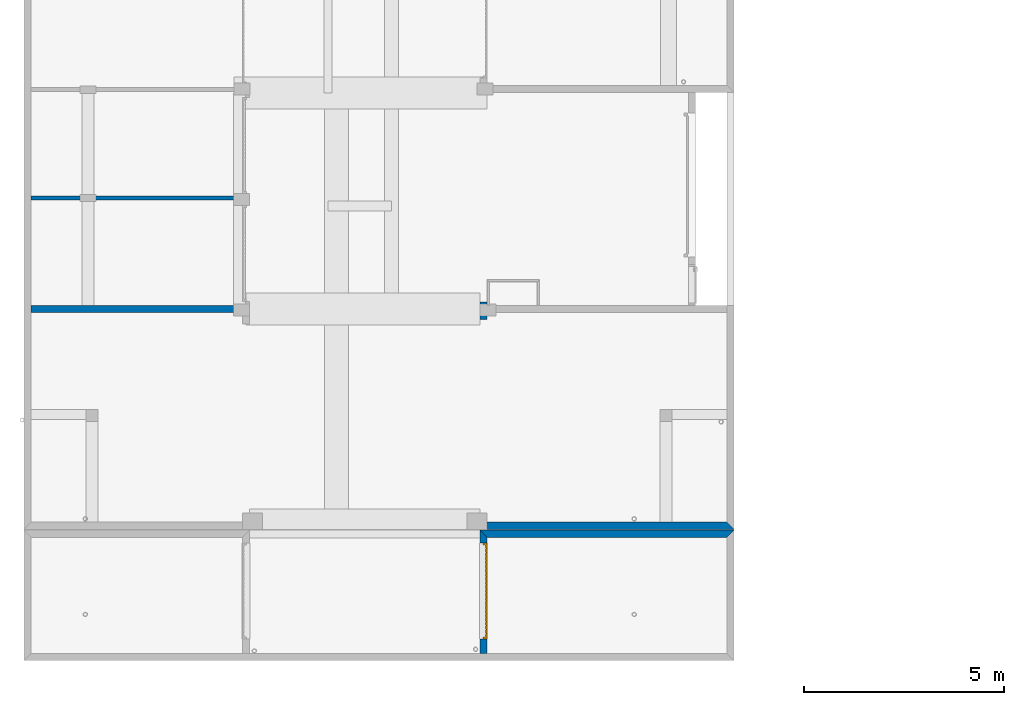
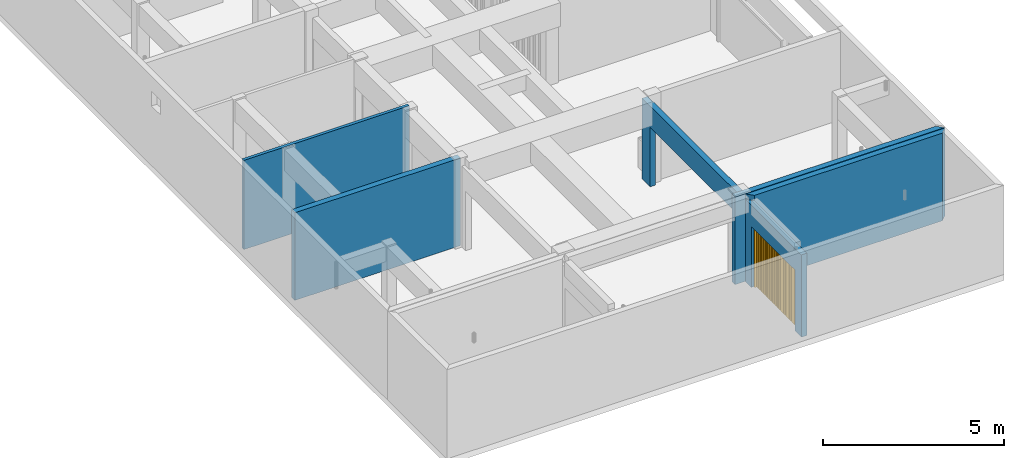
# One storey, part 4 of 41: 6 walls, 1 door, 2 openings.
"""IFC2X3 building model written with IfcOpenShell, lengths in millimetres."""

from ifc_helpers import new_model, entity, si_unit, converted_unit, derived_unit, money_unit, direction, frame, origin_with_axes, origin_2d_with_axis, place, context, subcontext, project, spatial, polyline, rectangle, outline, extrude, faceted_brep, source, transform, mapped, material, layer, layer_set, layer_usage, type_object, element, fill, save


model = new_model("IFC2X3")

# Units and contexts
model_context = context("Model", 3, precision=0.01, world=origin_with_axes(), true_north=direction((0.0, 1.0)))
body_context = subcontext(model_context, "Body", "Model", "MODEL_VIEW")
ifc_project = project(units=[si_unit("LENGTHUNIT", "METRE", prefix="MILLI"), si_unit("AREAUNIT", "SQUARE_METRE"), si_unit("VOLUMEUNIT", "CUBIC_METRE"), converted_unit("PLANEANGLEUNIT", "DEGREE", entity("IfcPlaneAngleMeasure", 0.0174532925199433), si_unit("PLANEANGLEUNIT", "RADIAN"), dimensions=[0, 0, 0, 0, 0, 0, 0]), money_unit("USD"), converted_unit("TIMEUNIT", "Year", entity("IfcTimeMeasure", 31557600.0), si_unit("TIMEUNIT", "SECOND"), dimensions=[0, 0, 1, 0, 0, 0, 0]), si_unit("MASSUNIT", "GRAM", prefix="KILO"), si_unit("THERMODYNAMICTEMPERATUREUNIT", "DEGREE_CELSIUS"), si_unit("LUMINOUSINTENSITYUNIT", "LUMEN"), si_unit("ENERGYUNIT", "JOULE", prefix="MEGA"), derived_unit("THERMALCONDUCTANCEUNIT", [(si_unit("POWERUNIT", "WATT"), 1), (si_unit("LENGTHUNIT", "METRE"), -1), (si_unit("THERMODYNAMICTEMPERATUREUNIT", "KELVIN"), -1)]), derived_unit("SPECIFICHEATCAPACITYUNIT", [(si_unit("ENERGYUNIT", "JOULE"), 1), (si_unit("MASSUNIT", "GRAM", prefix="KILO"), -1), (si_unit("THERMODYNAMICTEMPERATUREUNIT", "KELVIN"), -1)]), derived_unit("MASSDENSITYUNIT", [(si_unit("MASSUNIT", "GRAM", prefix="KILO"), 1), (si_unit("VOLUMEUNIT", "CUBIC_METRE"), -1)])], contexts=[model_context])

# Site, building, storey
site_placement = place(None, origin_with_axes())
site = spatial("IfcSite", under=ifc_project, at=site_placement, Name="Site", CompositionType="ELEMENT")
building_placement = place(site_placement, origin_with_axes())
building = spatial("IfcBuilding", under=site, at=building_placement, Name="Bâtiment", CompositionType="ELEMENT")
storey_placement = place(building_placement, origin_with_axes())
storey = spatial("IfcBuildingStorey", under=building, at=storey_placement, Name="sousol", CompositionType="ELEMENT", Elevation=0.0)

# Walls
ifc_material_1 = material(Name="Brique 1 268964100")
ifc_layer_1 = layer(ifc_material_1, 100.0, ventilated="UNKNOWN")
ifc_layer_set_1 = layer_set([ifc_layer_1], Name="Cloison 100 gaine")
ifc_layer_usage_1 = layer_usage(ifc_layer_set_1, "AXIS2", "NEGATIVE", 0.0)
wall_type_1 = type_object("IfcWallType", Name="Cloison 100 gaine 100", PredefinedType="NOTDEFINED")
wall_1_placement = place(storey_placement, frame((2222264.23334483, -649596.3764873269, 0.0), z_axis=(0.0, 0.0, 1.0), x_axis=(-1.0, 0.0, 0.0)))
element("IfcWallStandardCase", 1, at=wall_1_placement, inside=storey, type_object=wall_type_1, material=ifc_layer_usage_1, Name="Mur-133", context=body_context, shape_type="SweptSolid", body=[
    extrude(outline(polyline([(180.0000000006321, -99.99999999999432), (5449.999999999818, -99.99999999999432), (5449.999999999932, 0.0), (180.0000000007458, 0.0), (180.0000000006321, -99.99999999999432)])), origin_with_axes(), (0.0, 0.0, 1.0), 3000.0),
])
ifc_material_2 = material(Name="Parpaing 314940890")
ifc_layer_2 = layer(ifc_material_2, 180.0, ventilated="UNKNOWN")
ifc_layer_set_2 = layer_set([ifc_layer_2], Name="Beton  18 0170347028")
ifc_layer_usage_2 = layer_usage(ifc_layer_set_2, "AXIS2", "NEGATIVE", 0.0)
wall_type_2 = type_object("IfcWallType", Name="Beton  18 0170347028 180", PredefinedType="NOTDEFINED")
wall_2_placement = place(storey_placement, frame((2222264.23334483, -652412.6820620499, 0.0), z_axis=(0.0, 0.0, 1.0), x_axis=(-1.0, 0.0, 0.0)))
element("IfcWallStandardCase", 2, at=wall_2_placement, inside=storey, type_object=wall_type_2, material=ifc_layer_usage_2, Name="Mur-133", context=body_context, shape_type="SweptSolid", body=[
    extrude(outline(polyline([(180.0000000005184, -180.0000000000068), (5449.999999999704, -180.0000000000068), (5449.999999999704, 0.0), (180.0000000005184, 0.0), (180.0000000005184, -180.0000000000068)])), origin_with_axes(), (0.0, 0.0, 1.0), 2950.0),
])
ifc_layer_usage_3 = layer_usage(ifc_layer_set_2, "AXIS2", "POSITIVE", 0.0)
wall_3_placement = place(storey_placement, frame((2227694.233329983, -657818.3230769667, 0.0), z_axis=(0.0, 0.0, 1.0), x_axis=(1.0, 0.0, 0.0)))
element("IfcWallStandardCase", 3, at=wall_3_placement, inside=storey, type_object=wall_type_2, material=ifc_layer_usage_3, Name="Mur-133", context=body_context, shape_type="SweptSolid", body=[
    extrude(outline(polyline([(0.0, 0.0), (6662.408013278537, 0.0), (6482.408013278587, 180.0000000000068), (0.0, 180.0000000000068), (0.0, 0.0)])), origin_with_axes(), (0.0, 0.0, 1.0), 2950.0),
])

# Wall, opening
ifc_layer_usage_4 = layer_usage(ifc_layer_set_2, "AXIS2", "POSITIVE", 0.0)
wall_4_placement = place(storey_placement, frame((2228014.233329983, -652146.1737143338, 0.0), z_axis=(0.0, 0.0, 1.0), x_axis=(0.0, -1.0, 0.0)))
wall_4 = element("IfcWallStandardCase", 4, at=wall_4_placement, inside=storey, type_object=wall_type_2, material=ifc_layer_usage_4, Name="Mur-133", context=body_context, shape_type="SweptSolid", body=[
    extrude(outline(polyline([(0.0, 0.0), (5492.149362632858, 0.0), (5492.149362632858, 179.99999999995), (0.0, 179.99999999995), (0.0, 0.0)])), origin_with_axes(), (0.0, 0.0, 1.0), 2719.999999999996),
])
opening_1_placement = place(wall_4_placement, frame((2852.877738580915, -1.13686837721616e-10, 0.0), z_axis=(0.0, 0.0, 1.0), x_axis=(1.0, 0.0, 0.0)))
element("IfcOpeningElement", 5, at=opening_1_placement, cuts=wall_4, Name="Por-241", context=body_context, shape_type="SweptSolid", body=[
    extrude(rectangle(XDim=4838.543248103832, YDim=2000.0, at=origin_2d_with_axis()), frame((0.0, 179.99999999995, 1000.0), z_axis=(0.0, -1.0, 0.0), x_axis=(1.0, 0.0, 0.0)), (0.0, 0.0, -1.0), 180.0),
    extrude(rectangle(XDim=4838.543248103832, YDim=2000.0, at=origin_2d_with_axis()), frame((0.0, 179.99999999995, 1000.0), z_axis=(0.0, 1.0, 0.0), x_axis=(1.0, 0.0, 0.0)), (0.0, 0.0, -1.0), 180.0),
])

# Wall, opening, door
ifc_layer_usage_5 = layer_usage(ifc_layer_set_2, "AXIS2", "POSITIVE", 0.0)
wall_5_placement = place(storey_placement, frame((2228014.233329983, -657838.3230769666, 0.0), z_axis=(0.0, 0.0, 1.0), x_axis=(0.0, -1.0, 0.0)))
wall_5 = element("IfcWallStandardCase", 6, at=wall_5_placement, inside=storey, type_object=wall_type_2, material=ifc_layer_usage_5, Name="Mur-133", context=body_context, shape_type="SweptSolid", body=[
    extrude(outline(polyline([(0.0, 0.0), (3079.714388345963, 0.0), (3079.709870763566, 179.99999999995), (180.0000000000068, 179.99999999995), (0.0, 0.0)])), origin_with_axes(), (0.0, 0.0, 1.0), 2769.999999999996),
])
opening_2_placement = place(wall_5_placement, frame((1522.199473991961, -1.13686837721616e-10, 0.0), z_axis=(0.0, 0.0, 1.0), x_axis=(1.0, 0.0, 0.0)))
opening_2 = element("IfcOpeningElement", 7, at=opening_2_placement, cuts=wall_5, Name="Por-296", context=body_context, shape_type="SweptSolid", body=[
    extrude(rectangle(XDim=2400.000000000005, YDim=2050.0, at=origin_2d_with_axis()), frame((0.0, 179.99999999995, 1025.0), z_axis=(0.0, -1.0, 0.0), x_axis=(1.0, 0.0, 0.0)), (0.0, 0.0, -1.0), 180.0),
    extrude(rectangle(XDim=2400.000000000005, YDim=2050.0, at=origin_2d_with_axis()), frame((0.0, 179.99999999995, 1025.0), z_axis=(0.0, 1.0, 0.0), x_axis=(1.0, 0.0, 0.0)), (0.0, 0.0, -1.0), 180.0),
])
door_style = type_object("IfcDoorStyle", Name="P_garage 1", ConstructionType="NOTDEFINED", OperationType="NOTDEFINED", ParameterTakesPrecedence=False, Sizeable=False)
shared_shape = source(origin_with_axes(), body_context, "Body", "Brep", [
    faceted_brep([(1200.0, 0.0, 0.0), (1200.0, -99.99999999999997, 0.0), (1150.0, -99.99999999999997, 0.0), (1150.0, 0.0, 0.0), (1200.0, 0.0, 2050.0), (1200.0, -99.99999999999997, 2050.0), (-1200.0, -99.99999999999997, 2050.0), (-1200.0, -99.99999999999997, 0.0), (-1150.0, -99.99999999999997, 0.0), (-1150.0, -99.99999999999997, 2000.0), (1150.0, -99.99999999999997, 2000.0), (1150.0, 0.0, 2000.0), (-1150.0, 0.0, 2000.0), (-1150.0, 0.0, 0.0), (-1200.0, 0.0, 0.0), (-1200.0, 0.0, 2050.0)], [[[0, 1, 2, 3]], [[4, 5, 1, 0]], [[1, 5, 6, 7, 8, 9, 10, 2]], [[3, 2, 10, 11]], [[0, 3, 11, 12, 13, 14, 15, 4]], [[15, 6, 5, 4]], [[14, 7, 6, 15]], [[13, 8, 7, 14]], [[12, 9, 8, 13]], [[11, 10, 9, 12]]]),
    faceted_brep([(1069.130434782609, -39.99999999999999, 0.0), (1069.130434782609, -39.99999999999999, 2000.0), (1069.130434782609, -26.66666666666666, 2000.0), (1069.130434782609, -26.66666666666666, 0.0), (1150.0, -39.99999999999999, 0.0), (1150.0, -39.99999999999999, 2000.0), (1150.0, -26.66666666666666, 2000.0), (1150.0, -26.66666666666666, 0.0)], [[[0, 1, 2, 3]], [[0, 4, 5, 1]], [[1, 5, 6, 2]], [[3, 2, 6, 7]], [[4, 0, 3, 7]], [[5, 4, 7, 6]]]),
    faceted_brep([(968.2608695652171, -39.99999999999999, 0.0), (968.2608695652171, -39.99999999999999, 2000.0), (968.2608695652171, -26.66666666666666, 2000.0), (968.2608695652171, -26.66666666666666, 0.0), (1049.130434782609, -39.99999999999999, 0.0), (1049.130434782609, -39.99999999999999, 2000.0), (1049.130434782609, -26.66666666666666, 2000.0), (1049.130434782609, -26.66666666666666, 0.0)], [[[0, 1, 2, 3]], [[0, 4, 5, 1]], [[1, 5, 6, 2]], [[3, 2, 6, 7]], [[4, 0, 3, 7]], [[5, 4, 7, 6]]]),
    faceted_brep([(867.3913043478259, -39.99999999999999, 0.0), (867.3913043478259, -39.99999999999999, 2000.0), (867.3913043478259, -26.66666666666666, 2000.0), (867.3913043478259, -26.66666666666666, 0.0), (948.260869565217, -39.99999999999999, 0.0), (948.260869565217, -39.99999999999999, 2000.0), (948.260869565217, -26.66666666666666, 2000.0), (948.260869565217, -26.66666666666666, 0.0)], [[[0, 1, 2, 3]], [[0, 4, 5, 1]], [[1, 5, 6, 2]], [[3, 2, 6, 7]], [[4, 0, 3, 7]], [[5, 4, 7, 6]]]),
    faceted_brep([(766.5217391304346, -39.99999999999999, 0.0), (766.5217391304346, -39.99999999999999, 2000.0), (766.5217391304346, -26.66666666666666, 2000.0), (766.5217391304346, -26.66666666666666, 0.0), (847.3913043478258, -39.99999999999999, 0.0), (847.3913043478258, -39.99999999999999, 2000.0), (847.3913043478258, -26.66666666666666, 2000.0), (847.3913043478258, -26.66666666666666, 0.0)], [[[0, 1, 2, 3]], [[0, 4, 5, 1]], [[1, 5, 6, 2]], [[3, 2, 6, 7]], [[4, 0, 3, 7]], [[5, 4, 7, 6]]]),
    faceted_brep([(665.6521739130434, -39.99999999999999, 0.0), (665.6521739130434, -39.99999999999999, 2000.0), (665.6521739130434, -26.66666666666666, 2000.0), (665.6521739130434, -26.66666666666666, 0.0), (746.5217391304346, -39.99999999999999, 0.0), (746.5217391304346, -39.99999999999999, 2000.0), (746.5217391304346, -26.66666666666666, 2000.0), (746.5217391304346, -26.66666666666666, 0.0)], [[[0, 1, 2, 3]], [[0, 4, 5, 1]], [[1, 5, 6, 2]], [[3, 2, 6, 7]], [[4, 0, 3, 7]], [[5, 4, 7, 6]]]),
    faceted_brep([(564.7826086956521, -39.99999999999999, 0.0), (564.7826086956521, -39.99999999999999, 2000.0), (564.7826086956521, -26.66666666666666, 2000.0), (564.7826086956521, -26.66666666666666, 0.0), (645.6521739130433, -39.99999999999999, 0.0), (645.6521739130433, -39.99999999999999, 2000.0), (645.6521739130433, -26.66666666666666, 2000.0), (645.6521739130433, -26.66666666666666, 0.0)], [[[0, 1, 2, 3]], [[0, 4, 5, 1]], [[1, 5, 6, 2]], [[3, 2, 6, 7]], [[4, 0, 3, 7]], [[5, 4, 7, 6]]]),
    faceted_brep([(463.9130434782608, -39.99999999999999, 0.0), (463.9130434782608, -39.99999999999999, 2000.0), (463.9130434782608, -26.66666666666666, 2000.0), (463.9130434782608, -26.66666666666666, 0.0), (544.782608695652, -39.99999999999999, 0.0), (544.782608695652, -39.99999999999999, 2000.0), (544.782608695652, -26.66666666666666, 2000.0), (544.782608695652, -26.66666666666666, 0.0)], [[[0, 1, 2, 3]], [[0, 4, 5, 1]], [[1, 5, 6, 2]], [[3, 2, 6, 7]], [[4, 0, 3, 7]], [[5, 4, 7, 6]]]),
    faceted_brep([(363.0434782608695, -39.99999999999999, 0.0), (363.0434782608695, -39.99999999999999, 2000.0), (363.0434782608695, -26.66666666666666, 2000.0), (363.0434782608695, -26.66666666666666, 0.0), (443.9130434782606, -39.99999999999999, 0.0), (443.9130434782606, -39.99999999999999, 2000.0), (443.9130434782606, -26.66666666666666, 2000.0), (443.9130434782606, -26.66666666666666, 0.0)], [[[0, 1, 2, 3]], [[0, 4, 5, 1]], [[1, 5, 6, 2]], [[3, 2, 6, 7]], [[4, 0, 3, 7]], [[5, 4, 7, 6]]]),
    faceted_brep([(262.1739130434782, -39.99999999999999, 0.0), (262.1739130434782, -39.99999999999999, 2000.0), (262.1739130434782, -26.66666666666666, 2000.0), (262.1739130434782, -26.66666666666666, 0.0), (343.0434782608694, -39.99999999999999, 0.0), (343.0434782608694, -39.99999999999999, 2000.0), (343.0434782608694, -26.66666666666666, 2000.0), (343.0434782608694, -26.66666666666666, 0.0)], [[[0, 1, 2, 3]], [[0, 4, 5, 1]], [[1, 5, 6, 2]], [[3, 2, 6, 7]], [[4, 0, 3, 7]], [[5, 4, 7, 6]]]),
    faceted_brep([(161.3043478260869, -39.99999999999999, 0.0), (161.3043478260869, -39.99999999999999, 2000.0), (161.3043478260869, -26.66666666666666, 2000.0), (161.3043478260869, -26.66666666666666, 0.0), (242.1739130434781, -39.99999999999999, 0.0), (242.1739130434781, -39.99999999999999, 2000.0), (242.1739130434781, -26.66666666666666, 2000.0), (242.1739130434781, -26.66666666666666, 0.0)], [[[0, 1, 2, 3]], [[0, 4, 5, 1]], [[1, 5, 6, 2]], [[3, 2, 6, 7]], [[4, 0, 3, 7]], [[5, 4, 7, 6]]]),
    faceted_brep([(60.43478260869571, -39.99999999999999, 0.0), (60.43478260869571, -39.99999999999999, 2000.0), (60.43478260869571, -26.66666666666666, 2000.0), (60.43478260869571, -26.66666666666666, 0.0), (141.3043478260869, -39.99999999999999, 0.0), (141.3043478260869, -39.99999999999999, 2000.0), (141.3043478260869, -26.66666666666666, 2000.0), (141.3043478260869, -26.66666666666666, 0.0)], [[[0, 1, 2, 3]], [[0, 4, 5, 1]], [[1, 5, 6, 2]], [[3, 2, 6, 7]], [[4, 0, 3, 7]], [[5, 4, 7, 6]]]),
    faceted_brep([(-40.43478260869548, -39.99999999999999, 0.0), (-40.43478260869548, -39.99999999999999, 2000.0), (-40.43478260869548, -26.66666666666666, 2000.0), (-40.43478260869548, -26.66666666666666, 0.0), (40.4347826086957, -39.99999999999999, 0.0), (40.4347826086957, -39.99999999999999, 2000.0), (40.4347826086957, -26.66666666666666, 2000.0), (40.4347826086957, -26.66666666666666, 0.0)], [[[0, 1, 2, 3]], [[0, 4, 5, 1]], [[1, 5, 6, 2]], [[3, 2, 6, 7]], [[4, 0, 3, 7]], [[5, 4, 7, 6]]]),
    faceted_brep([(-141.3043478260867, -39.99999999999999, 0.0), (-141.3043478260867, -39.99999999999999, 2000.0), (-141.3043478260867, -26.66666666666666, 2000.0), (-141.3043478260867, -26.66666666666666, 0.0), (-60.43478260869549, -39.99999999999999, 0.0), (-60.43478260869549, -39.99999999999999, 2000.0), (-60.43478260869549, -26.66666666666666, 2000.0), (-60.43478260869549, -26.66666666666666, 0.0)], [[[0, 1, 2, 3]], [[0, 4, 5, 1]], [[1, 5, 6, 2]], [[3, 2, 6, 7]], [[4, 0, 3, 7]], [[5, 4, 7, 6]]]),
    faceted_brep([(-242.1739130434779, -39.99999999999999, 0.0), (-242.1739130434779, -39.99999999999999, 2000.0), (-242.1739130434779, -26.66666666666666, 2000.0), (-242.1739130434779, -26.66666666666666, 0.0), (-161.3043478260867, -39.99999999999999, 0.0), (-161.3043478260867, -39.99999999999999, 2000.0), (-161.3043478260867, -26.66666666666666, 2000.0), (-161.3043478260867, -26.66666666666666, 0.0)], [[[0, 1, 2, 3]], [[0, 4, 5, 1]], [[1, 5, 6, 2]], [[3, 2, 6, 7]], [[4, 0, 3, 7]], [[5, 4, 7, 6]]]),
    faceted_brep([(-343.0434782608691, -39.99999999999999, 0.0), (-343.0434782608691, -39.99999999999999, 2000.0), (-343.0434782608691, -26.66666666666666, 2000.0), (-343.0434782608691, -26.66666666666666, 0.0), (-262.1739130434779, -39.99999999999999, 0.0), (-262.1739130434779, -39.99999999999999, 2000.0), (-262.1739130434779, -26.66666666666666, 2000.0), (-262.1739130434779, -26.66666666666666, 0.0)], [[[0, 1, 2, 3]], [[0, 4, 5, 1]], [[1, 5, 6, 2]], [[3, 2, 6, 7]], [[4, 0, 3, 7]], [[5, 4, 7, 6]]]),
    faceted_brep([(-443.9130434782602, -39.99999999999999, 0.0), (-443.9130434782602, -39.99999999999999, 2000.0), (-443.9130434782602, -26.66666666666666, 2000.0), (-443.9130434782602, -26.66666666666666, 0.0), (-363.0434782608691, -39.99999999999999, 0.0), (-363.0434782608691, -39.99999999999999, 2000.0), (-363.0434782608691, -26.66666666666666, 2000.0), (-363.0434782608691, -26.66666666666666, 0.0)], [[[0, 1, 2, 3]], [[0, 4, 5, 1]], [[1, 5, 6, 2]], [[3, 2, 6, 7]], [[4, 0, 3, 7]], [[5, 4, 7, 6]]]),
    faceted_brep([(-544.7826086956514, -39.99999999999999, 0.0), (-544.7826086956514, -39.99999999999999, 2000.0), (-544.7826086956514, -26.66666666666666, 2000.0), (-544.7826086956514, -26.66666666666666, 0.0), (-463.9130434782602, -39.99999999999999, 0.0), (-463.9130434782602, -39.99999999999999, 2000.0), (-463.9130434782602, -26.66666666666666, 2000.0), (-463.9130434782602, -26.66666666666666, 0.0)], [[[0, 1, 2, 3]], [[0, 4, 5, 1]], [[1, 5, 6, 2]], [[3, 2, 6, 7]], [[4, 0, 3, 7]], [[5, 4, 7, 6]]]),
    faceted_brep([(-645.6521739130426, -39.99999999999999, 0.0), (-645.6521739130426, -39.99999999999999, 2000.0), (-645.6521739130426, -26.66666666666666, 2000.0), (-645.6521739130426, -26.66666666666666, 0.0), (-564.7826086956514, -39.99999999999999, 0.0), (-564.7826086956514, -39.99999999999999, 2000.0), (-564.7826086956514, -26.66666666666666, 2000.0), (-564.7826086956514, -26.66666666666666, 0.0)], [[[0, 1, 2, 3]], [[0, 4, 5, 1]], [[1, 5, 6, 2]], [[3, 2, 6, 7]], [[4, 0, 3, 7]], [[5, 4, 7, 6]]]),
    faceted_brep([(-746.5217391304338, -39.99999999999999, 0.0), (-746.5217391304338, -39.99999999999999, 2000.0), (-746.5217391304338, -26.66666666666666, 2000.0), (-746.5217391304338, -26.66666666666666, 0.0), (-665.6521739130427, -39.99999999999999, 0.0), (-665.6521739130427, -39.99999999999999, 2000.0), (-665.6521739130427, -26.66666666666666, 2000.0), (-665.6521739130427, -26.66666666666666, 0.0)], [[[0, 1, 2, 3]], [[0, 4, 5, 1]], [[1, 5, 6, 2]], [[3, 2, 6, 7]], [[4, 0, 3, 7]], [[5, 4, 7, 6]]]),
    faceted_brep([(-847.391304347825, -39.99999999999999, 0.0), (-847.391304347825, -39.99999999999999, 2000.0), (-847.391304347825, -26.66666666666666, 2000.0), (-847.391304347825, -26.66666666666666, 0.0), (-766.5217391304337, -39.99999999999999, 0.0), (-766.5217391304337, -39.99999999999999, 2000.0), (-766.5217391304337, -26.66666666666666, 2000.0), (-766.5217391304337, -26.66666666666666, 0.0)], [[[0, 1, 2, 3]], [[0, 4, 5, 1]], [[1, 5, 6, 2]], [[3, 2, 6, 7]], [[4, 0, 3, 7]], [[5, 4, 7, 6]]]),
    faceted_brep([(-948.2608695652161, -39.99999999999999, 0.0), (-948.2608695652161, -39.99999999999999, 2000.0), (-948.2608695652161, -26.66666666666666, 2000.0), (-948.2608695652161, -26.66666666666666, 0.0), (-867.391304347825, -39.99999999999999, 0.0), (-867.391304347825, -39.99999999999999, 2000.0), (-867.391304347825, -26.66666666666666, 2000.0), (-867.391304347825, -26.66666666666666, 0.0)], [[[0, 1, 2, 3]], [[0, 4, 5, 1]], [[1, 5, 6, 2]], [[3, 2, 6, 7]], [[4, 0, 3, 7]], [[5, 4, 7, 6]]]),
    faceted_brep([(-1049.130434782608, -39.99999999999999, 0.0), (-1049.130434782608, -39.99999999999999, 2000.0), (-1049.130434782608, -26.66666666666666, 2000.0), (-1049.130434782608, -26.66666666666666, 0.0), (-968.2608695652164, -39.99999999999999, 0.0), (-968.2608695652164, -39.99999999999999, 2000.0), (-968.2608695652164, -26.66666666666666, 2000.0), (-968.2608695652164, -26.66666666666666, 0.0)], [[[0, 1, 2, 3]], [[0, 4, 5, 1]], [[1, 5, 6, 2]], [[3, 2, 6, 7]], [[4, 0, 3, 7]], [[5, 4, 7, 6]]]),
    faceted_brep([(-1149.999999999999, -39.99999999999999, 0.0), (-1149.999999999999, -39.99999999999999, 2000.0), (-1149.999999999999, -26.66666666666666, 2000.0), (-1149.999999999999, -26.66666666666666, 0.0), (-1069.130434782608, -39.99999999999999, 0.0), (-1069.130434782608, -39.99999999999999, 2000.0), (-1069.130434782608, -26.66666666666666, 2000.0), (-1069.130434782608, -26.66666666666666, 0.0)], [[[0, 1, 2, 3]], [[0, 4, 5, 1]], [[1, 5, 6, 2]], [[3, 2, 6, 7]], [[4, 0, 3, 7]], [[5, 4, 7, 6]]]),
    faceted_brep([(1150.0, -26.66666666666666, 0.0), (-1150.0, -26.66666666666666, 0.0), (-1150.0, 0.0, 0.0), (1150.0, 0.0, 0.0), (1150.0, -26.66666666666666, 2000.0), (-1150.0, -26.66666666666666, 2000.0), (-1150.0, 0.0, 2000.0), (1150.0, 0.0, 2000.0)], [[[0, 1, 2, 3]], [[0, 4, 5, 1]], [[1, 5, 6, 2]], [[3, 2, 6, 7]], [[4, 0, 3, 7]], [[5, 4, 7, 6]]]),
])
door_placement = place(opening_2_placement, frame((-1199.99999999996, -1.13686837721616e-10, 0.0), z_axis=(0.0, 0.0, 1.0), x_axis=(1.0, 0.0, 0.0)))
door = element("IfcDoor", 8, at=door_placement, inside=storey, type_object=door_style, Name="Por-296", OverallHeight=2050.0, OverallWidth=2400.0, context=body_context, shape_type="MappedRepresentation", body=[
    mapped(shared_shape, transform((1200.000000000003, 179.99999999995, 0.0))),
])
fill(opening_2, door)

# Wall
ifc_layer_usage_6 = layer_usage(ifc_layer_set_2, "AXIS2", "NEGATIVE", 0.0)
wall_6_placement = place(storey_placement, frame((2228014.233329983, -657838.3230769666, 0.0), z_axis=(0.0, 0.0, 1.0), x_axis=(1.0, 0.0, 0.0)))
element("IfcWallStandardCase", 9, at=wall_6_placement, inside=storey, type_object=wall_type_2, material=ifc_layer_usage_6, Name="Mur-133", context=body_context, shape_type="SweptSolid", body=[
    extrude(outline(polyline([(179.99999999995, -180.0000000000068), (6162.408013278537, -180.0000000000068), (6342.408013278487, 0.0), (0.0, 0.0), (179.99999999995, -180.0000000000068)])), origin_with_axes(), (0.0, 0.0, 1.0), 2950.0),
])

save(model, "model.ifc")
